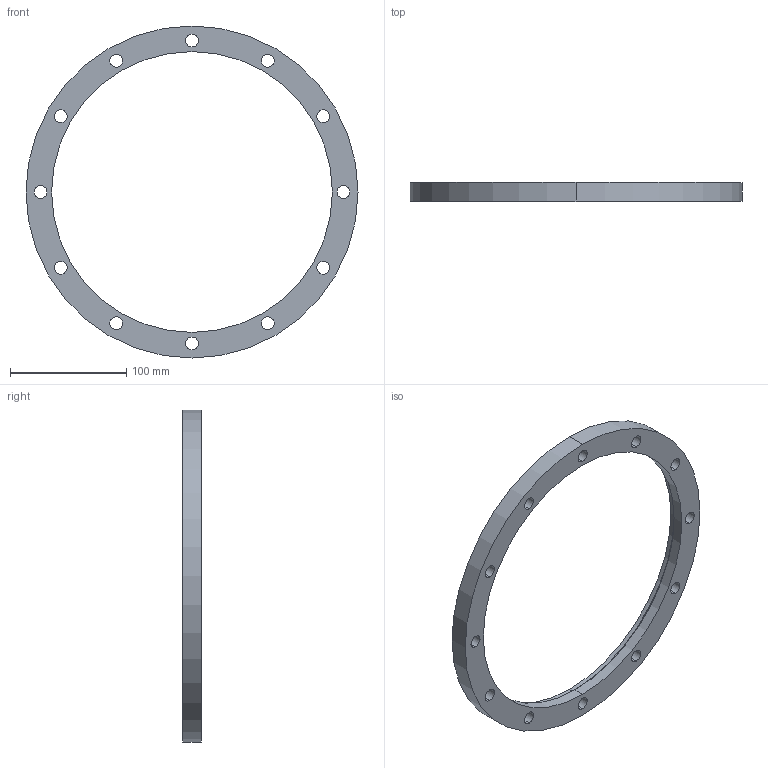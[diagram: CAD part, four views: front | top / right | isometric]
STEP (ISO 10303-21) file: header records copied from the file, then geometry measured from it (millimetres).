
FILE_DESCRIPTION (( 'STEP AP214' ), '1' );
FILE_NAME ('W5UEF200.STEP', '2021-01-27T10:06:21', ( '' ), ( '' ), 'SwSTEP 2.0', 'SolidWorks 2020', '' );
FILE_SCHEMA (( 'AUTOMOTIVE_DESIGN' ));
Length unit declared in the file: millimetre
Products named in the file (1): W5UEF200
Bounding box: 285 x 16 x 285 mm (x, y, z)
Volume: 259935.7 mm3; surface area: 66427 mm2
Topology: 1 solids, 1 shells, 35 faces, 94 edges, 62 vertices
Faces by surface type: cylinder 30, plane 3, torus 2
Entity records: 1222 total; most frequent: DIRECTION 230, CARTESIAN_POINT 192, ORIENTED_EDGE 188, AXIS2_PLACEMENT_3D 100, EDGE_CURVE 94, CIRCLE 64, VERTEX_POINT 62, EDGE_LOOP 62
